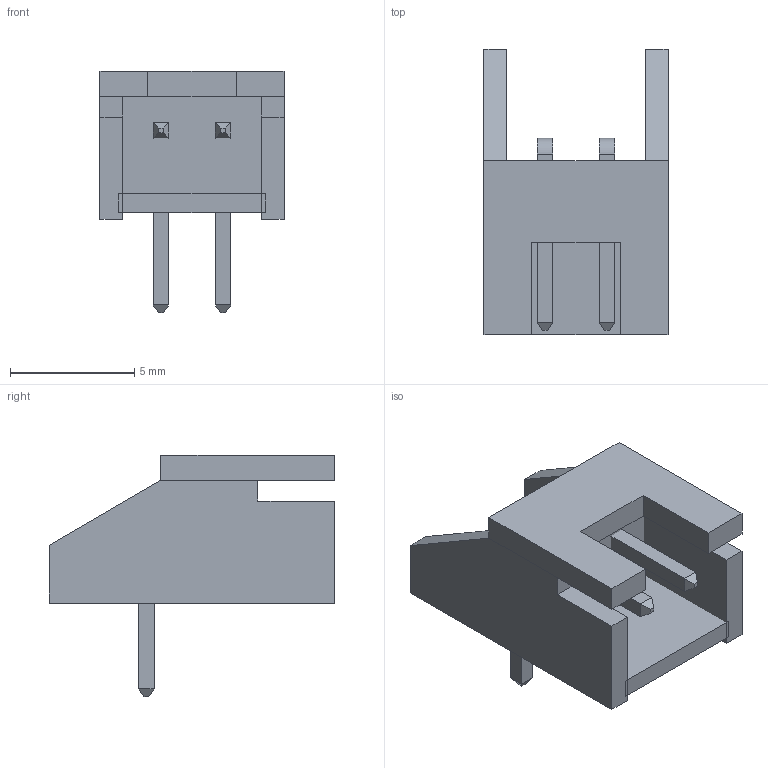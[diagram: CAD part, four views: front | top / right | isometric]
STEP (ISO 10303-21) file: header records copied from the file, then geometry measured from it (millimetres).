
FILE_DESCRIPTION(('FreeCAD Model'),'2;1');
FILE_NAME('Open CASCADE Shape Model','2026-07-31T22:05:20',('FreeCAD'),( 'FreeCAD'),'Open CASCADE STEP processor 7.9','FreeCAD','Unknown');
FILE_SCHEMA(('AUTOMOTIVE_DESIGN { 1 0 10303 214 1 1 1 1 }'));
Length unit declared in the file: millimetre
Products named in the file (1): Open CASCADE STEP translator 7.9 1
Bounding box: 7.42 x 11.51 x 9.75 mm (x, y, z)
Volume: 234.7 mm3; surface area: 646.8 mm2
Topology: 7 solids, 7 shells, 88 faces, 194 edges, 124 vertices
Faces by surface type: plane 64, bspline 24
Entity records: 2469 total; most frequent: CARTESIAN_POINT 685, ORIENTED_EDGE 388, DIRECTION 238, EDGE_CURVE 194, VERTEX_POINT 124, LINE 108, VECTOR 108, FACE_BOUND 92
